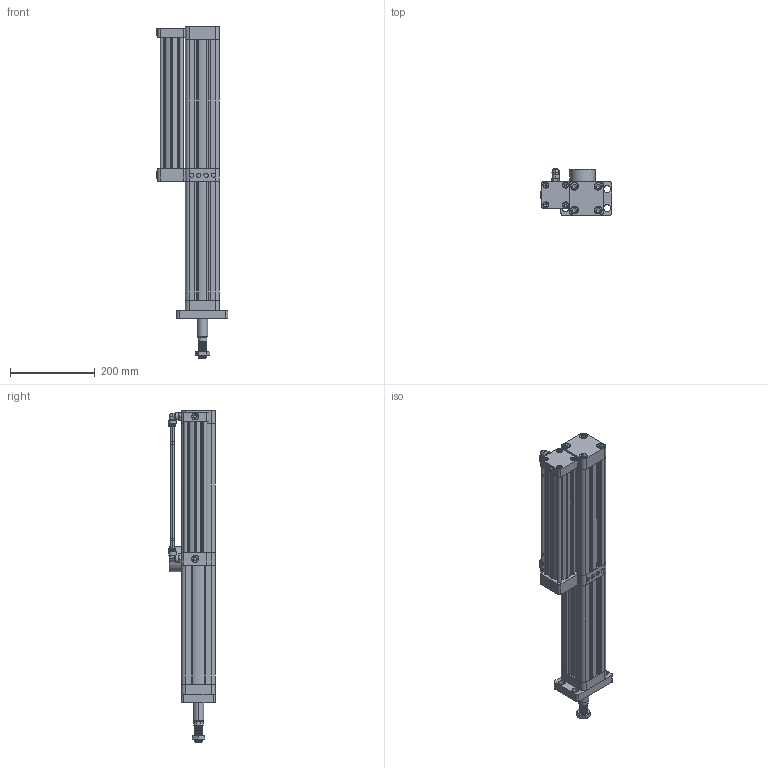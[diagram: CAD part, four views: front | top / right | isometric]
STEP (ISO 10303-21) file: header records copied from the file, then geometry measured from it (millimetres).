
FILE_DESCRIPTION(('CATIA V5 STEP Exchange'),'2;1');
FILE_NAME('D:\7-PHP\PHP CYLINDER\cad\master file\63.50.10\Stroke\PHP63.200.20\ASS\PHP-63-200-20.stp','2020-09-22T07:50:39+00:00',('none'),('none'),'CATIA Version 5-6 Release 2016','CATIA V5 STEP AP203','none');
FILE_SCHEMA(('CONFIG_CONTROL_DESIGN'));
Products named in the file (2): PHP-63-200-20; prssure
Assembly tree (39 placements, depth 3):
  PHP-63-200-20
    #57
    #689
    #996
    #4193
    #4840
    #8037
    #8613
    #9204
    #12710
    prssure
      #13507
      #13819
      #13923
      #132929
      #249919
      #249942
      #250304
      #250408
      #250583
      #250953
      #251846
    #252752
    #252856
    #253734
    #254612
    #255490
    #256368
    #263649
    #264563
    #265477
    #266391
    #267305
    #267849  x3
    #268366  x2
    #268574  x2
Bounding box: 169 x 110.25 x 785 mm (x, y, z)
Volume: 2309371.4 mm3; surface area: 859732.9 mm2
Topology: 85 solids, 85 shells, 8422 faces, 24439 edges, 16252 vertices
Faces by surface type: plane 7498, cylinder 671, cone 110, bspline 77, torus 58, sphere 8
Entity records: 271220 total; most frequent: CARTESIAN_POINT 53802, ORIENTED_EDGE 48282, DIRECTION 39389, EDGE_CURVE 24141, VECTOR 22314, LINE 22314, VERTEX_POINT 16062, AXIS2_PLACEMENT_3D 9222
